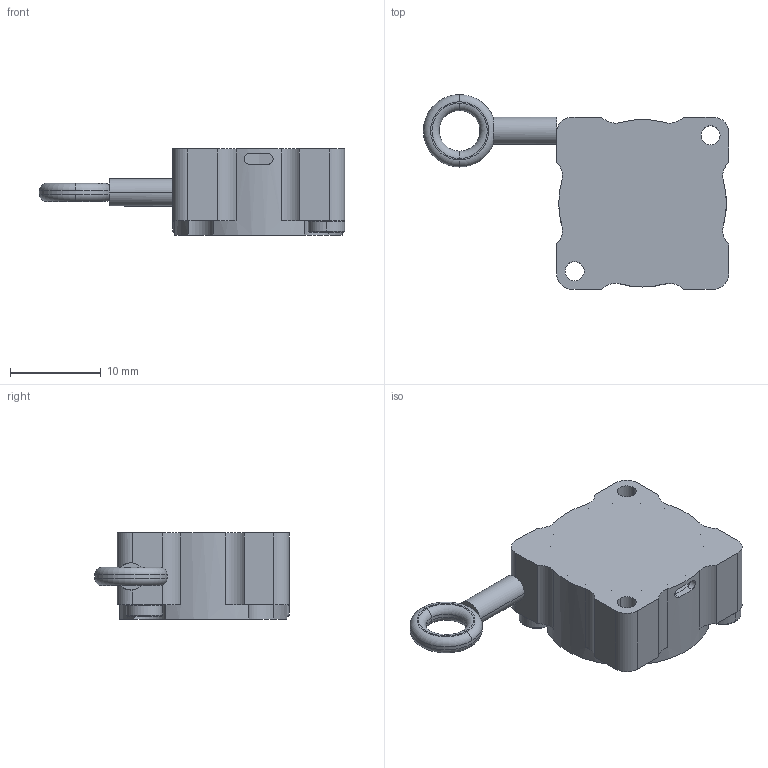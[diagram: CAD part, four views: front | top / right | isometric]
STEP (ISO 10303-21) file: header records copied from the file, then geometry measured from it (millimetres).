
FILE_DESCRIPTION((''),'2;1');
FILE_NAME('WDS-40-MT19-P_SW','2019-03-13T',('15000593'),(''),'PRO/ENGINEER BY PARAMETRIC TECHNOLOGY CORPORATION, 2015200','PRO/ENGINEER BY PARAMETRIC TECHNOLOGY CORPORATION, 2015200','');
FILE_SCHEMA(('CONFIG_CONTROL_DESIGN'));
Length unit declared in the file: millimetre
Products named in the file (1): WDS-40-MT19-P_SW
Bounding box: 33.7 x 21.5 x 9.5 mm (x, y, z)
Volume: 1176.9 mm3; surface area: 2668.4 mm2
Topology: 1 solids, 1 shells, 377 faces, 1053 edges, 699 vertices
Faces by surface type: extrusion 194, plane 83, cylinder 76, torus 16, cone 8
Entity records: 16225 total; most frequent: CARTESIAN_POINT 7332, ORIENTED_EDGE 2098, DIRECTION 1270, EDGE_CURVE 1049, B_SPLINE_CURVE_WITH_KNOTS 706, VERTEX_POINT 699, VECTOR 558, EDGE_LOOP 410
